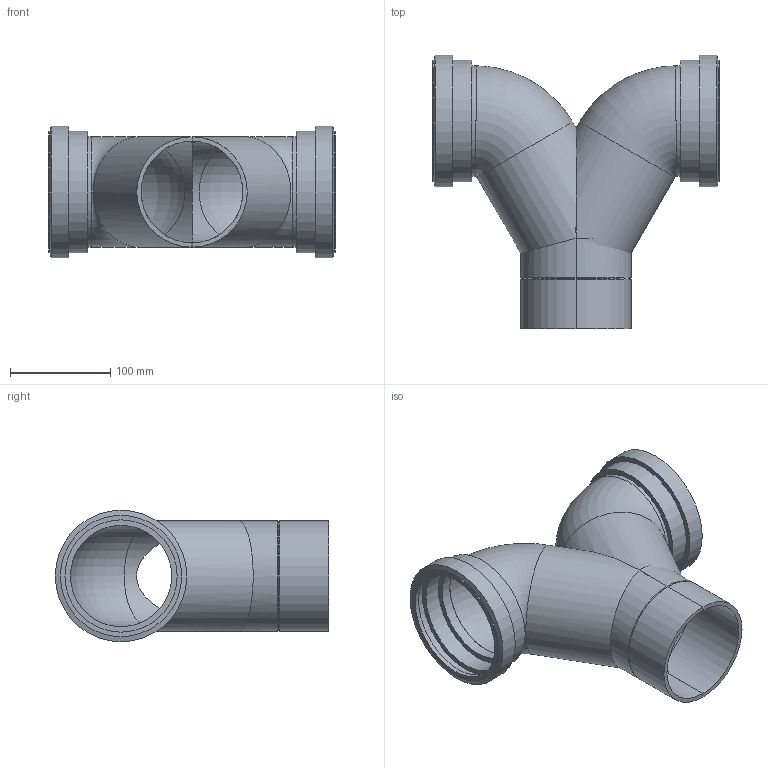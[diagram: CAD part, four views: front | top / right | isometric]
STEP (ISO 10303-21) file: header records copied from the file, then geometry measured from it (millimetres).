
FILE_DESCRIPTION(/* description */ (''),/* implementation_level */ '2;1');
FILE_NAME(/* name */ 'Z:\Geberit\Export\NewStep\367903.stp',/* time_stamp */ '2014-04-02T07:59:14+02:00',/* author */ ('ML'),/* organization */ (''),/* preprocessor_version */ 'ST-DEVELOPER v15.2',/* originating_system */ 'Autodesk Inventor 2014',/* authorisation */ '');
FILE_SCHEMA (('AUTOMOTIVE_DESIGN { 1 0 10303 214 3 1 1 }'));
Length unit declared in the file: millimetre
Products named in the file (1): 367903
Bounding box: 285 x 272.33 x 131 mm (x, y, z)
Volume: 687831.9 mm3; surface area: 324333.3 mm2
Topology: 2 solids, 2 shells, 69 faces, 155 edges, 98 vertices
Faces by surface type: cylinder 31, plane 20, cone 12, torus 4, sphere 2
Full cylindrical faces by diameter (mm): 100.94 x2, 101.4 x3, 110 x4, 111.75 x4, 120.81 x4, 121.94 x2, 131 x2
Entity records: 2081 total; most frequent: CARTESIAN_POINT 576, DIRECTION 316, ORIENTED_EDGE 236, AXIS2_PLACEMENT_3D 144, EDGE_CURVE 118, EDGE_LOOP 110, VERTEX_POINT 90, STYLED_ITEM 71
